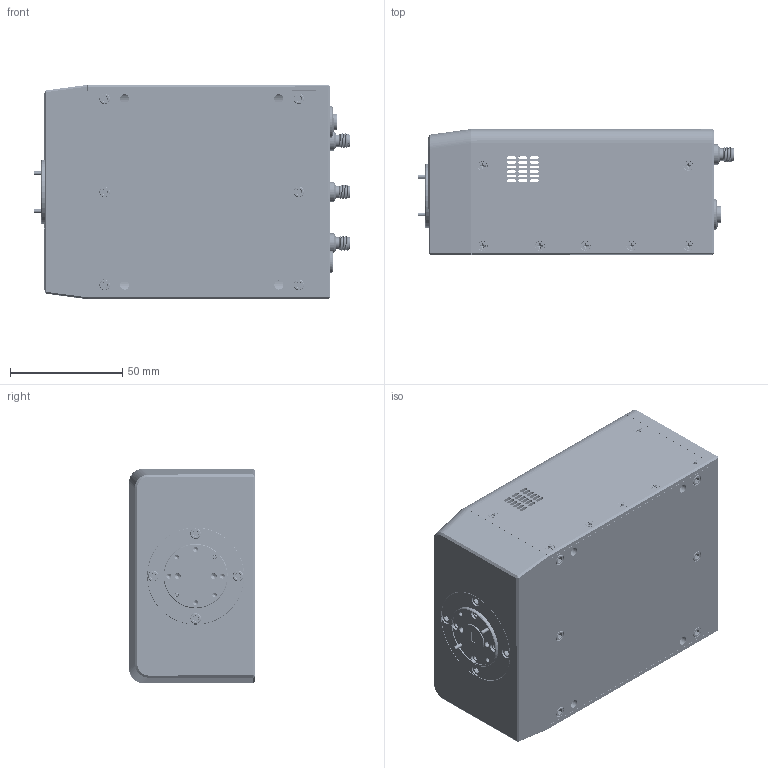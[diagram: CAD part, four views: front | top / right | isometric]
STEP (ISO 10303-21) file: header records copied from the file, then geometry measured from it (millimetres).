
FILE_DESCRIPTION (( 'STEP AP214' ), '1' );
FILE_NAME ('TO-TU-A Mountable.STEP', '2024-11-14T23:06:44', ( '' ), ( '' ), 'SwSTEP 2.0', 'SolidWorks 2021', '' );
FILE_SCHEMA (( 'AUTOMOTIVE_DESIGN' ));
Length unit declared in the file: inch
Products named in the file (1): TO-TU-A Mountable
Bounding box: 140.96 x 56.19 x 95.37 mm (x, y, z)
Volume: 224204.1 mm3; surface area: 125137.4 mm2
Topology: 62 solids, 62 shells, 3635 faces, 9603 edges, 6107 vertices
Faces by surface type: cylinder 1659, plane 933, cone 663, bspline 351, sphere 21, torus 8
Entity records: 256974 total; most frequent: CARTESIAN_POINT 128147, ORIENTED_EDGE 18904, DIRECTION 14588, EDGE_CURVE 9452, VERTEX_POINT 6101, AXIS2_PLACEMENT_3D 5540, EDGE_LOOP 4015, DIMENSIONAL_EXPONENTS 3696
